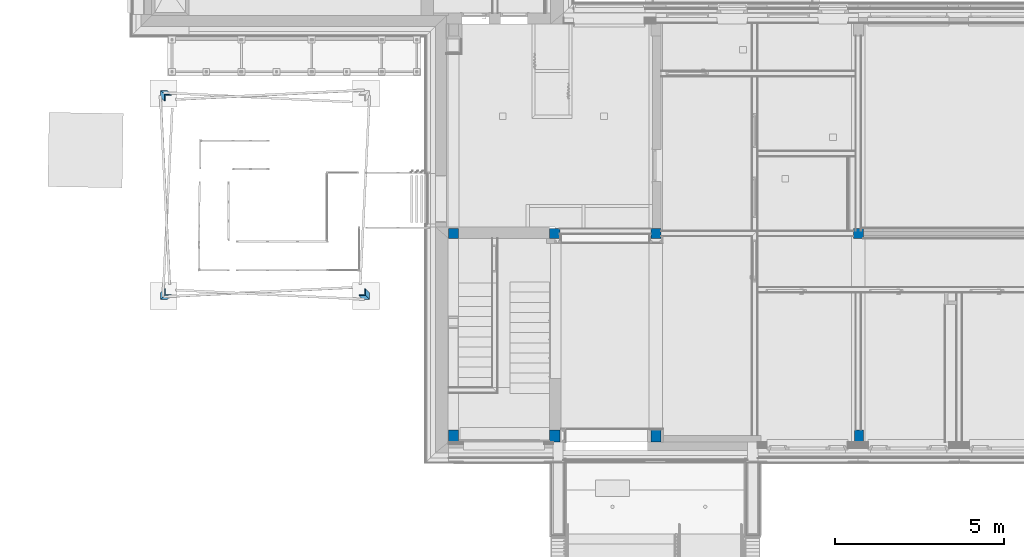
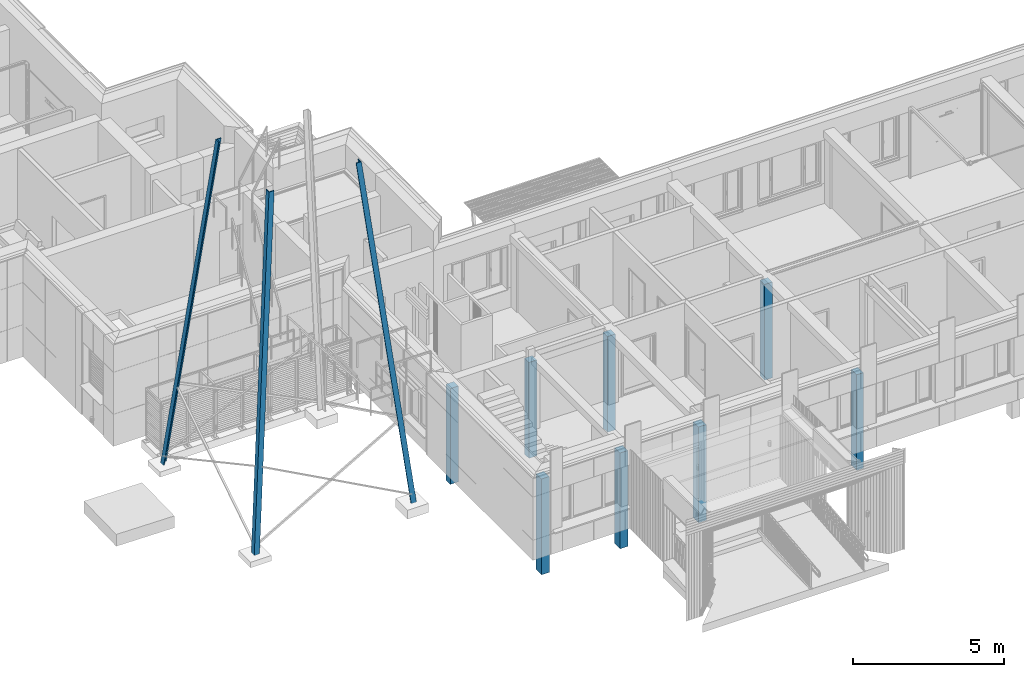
# One storey, part 1 of 418: 11 columns.
"""IFC2X3 building model written with IfcOpenShell, lengths in millimetres."""

from ifc_helpers import new_model, entity, si_unit, converted_unit, derived_unit, money_unit, direction, frame, origin_with_axes, origin_2d_with_axis, place, context, subcontext, project, spatial, polyline, rectangle, outline, extrude, clip, halfspace, material, type_object, element, save


model = new_model("IFC2X3")

# Units and contexts
model_context = context("Model", 3, precision=0.01, world=origin_with_axes(), true_north=direction((0.0, 1.0)))
body_context = subcontext(model_context, "Body", "Model", "MODEL_VIEW")
ifc_project = project(units=[si_unit("LENGTHUNIT", "METRE", prefix="MILLI"), si_unit("AREAUNIT", "SQUARE_METRE"), si_unit("VOLUMEUNIT", "CUBIC_METRE"), converted_unit("PLANEANGLEUNIT", "DEGREE", entity("IfcPlaneAngleMeasure", 0.0174532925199), si_unit("PLANEANGLEUNIT", "RADIAN"), dimensions=[0, 0, 0, 0, 0, 0, 0]), si_unit("SOLIDANGLEUNIT", "STERADIAN"), money_unit("EUR"), converted_unit("TIMEUNIT", "Year", entity("IfcTimeMeasure", 31556926.0), si_unit("TIMEUNIT", "SECOND"), dimensions=[0, 0, 1, 0, 0, 0, 0]), si_unit("MASSUNIT", "GRAM", prefix="KILO"), si_unit("THERMODYNAMICTEMPERATUREUNIT", "DEGREE_CELSIUS"), si_unit("LUMINOUSINTENSITYUNIT", "LUMEN"), si_unit("ENERGYUNIT", "JOULE", prefix="MEGA"), derived_unit("THERMALCONDUCTANCEUNIT", [(si_unit("POWERUNIT", "WATT"), 1), (si_unit("LENGTHUNIT", "METRE"), -1), (si_unit("THERMODYNAMICTEMPERATUREUNIT", "KELVIN"), -1)]), derived_unit("SPECIFICHEATCAPACITYUNIT", [(si_unit("ENERGYUNIT", "JOULE"), 1), (si_unit("MASSUNIT", "GRAM", prefix="KILO"), -1), (si_unit("THERMODYNAMICTEMPERATUREUNIT", "KELVIN"), -1)]), derived_unit("MASSDENSITYUNIT", [(si_unit("MASSUNIT", "GRAM", prefix="KILO"), 1), (si_unit("VOLUMEUNIT", "CUBIC_METRE"), -1)])], contexts=[model_context])

# Site, building, storey
site_placement = place(None, origin_with_axes())
site = spatial("IfcSite", under=ifc_project, at=site_placement, Name="Paldiski mnt 245/1, Tallinn, Harjumaa", CompositionType="COMPLEX")
building_placement = place(site_placement, origin_with_axes())
building = spatial("IfcBuilding", under=site, at=building_placement, Name="RKAS Hoone üldnimetus (kasutust iseloomustav) -> IFC Project Manager -> SOLIBRI", CompositionType="ELEMENT")
storey_placement = place(building_placement, origin_with_axes())
storey = spatial("IfcBuildingStorey", under=building, at=storey_placement, Name="Esimene korrus", CompositionType="ELEMENT", Elevation=0.0)

# Columns
ifc_material_1 = material(Name="KON-00_GENEERILINE - KONSTRUKTSIOON")
column_type_1 = type_object("IfcColumnType", Name="KON-00_GENEERILINE - KONSTRUKTSIOON 300 x 360", PredefinedType="COLUMN")
for number, where, z_axis, x_axis, name in (
    (1, (-44440.0, -12330.0840871, -1200.0), (0.0, 0.0, 1.0), (1.0, 0.0, 0.0), "POST"),
    (2, (-47440.0, -12330.0840871, -1200.0), (0.0, 0.0, 1.0), (1.0, 0.0, 0.0), "POST"),
    (3, (-41440.0, -12330.0840871, -1200.0), (0.0, 0.0, 1.0), (1.0, 0.0, 0.0), "POST"),
):
    element("IfcColumn", number, at=place(storey_placement, frame(where, z_axis=z_axis, x_axis=x_axis)), inside=storey, type_object=column_type_1, material=ifc_material_1, Name=name, ObjectType="COLUMN", context=body_context, shape_type="SweptSolid", body=[
        extrude(rectangle(XDim=300.0, YDim=360.0, at=origin_2d_with_axis()), origin_with_axes(), (0.0, 0.0, 1.0), 3870.0),
    ])
column_type_2 = type_object("IfcColumnType", Name="KON-00_GENEERILINE - KONSTRUKTSIOON 260 x 360", PredefinedType="COLUMN")
column_1_placement = place(storey_placement, frame((-35420.0, -12330.0840871, -1200.0), z_axis=(0.0, 0.0, 1.0), x_axis=(1.0, 0.0, 0.0)))
element("IfcColumn", 4, at=column_1_placement, inside=storey, type_object=column_type_2, material=ifc_material_1, Name="POST", ObjectType="COLUMN", context=body_context, shape_type="SweptSolid", body=[
    extrude(rectangle(XDim=260.0, YDim=360.0, at=origin_2d_with_axis()), origin_with_axes(), (0.0, 0.0, 1.0), 3870.0),
])
column_type_3 = type_object("IfcColumnType", Name="KON-00_GENEERILINE - KONSTRUKTSIOON 300 x 300", PredefinedType="COLUMN")
for number, where, z_axis, x_axis, name in (
    (5, (-35440.0, -6330.0, -1200.0), (0.0, 0.0, 1.0), (1.0, 0.0, 0.0), "POST"),
    (6, (-41440.0, -6330.0, -1200.0), (0.0, 0.0, 1.0), (1.0, 0.0, 0.0), "POST"),
    (7, (-47440.0, -6330.0, -1200.0), (0.0, 0.0, 1.0), (1.0, 0.0, 0.0), "POST"),
    (8, (-44440.0, -6330.0, -1200.0), (0.0, 0.0, 1.0), (1.0, 0.0, 0.0), "POST"),
):
    element("IfcColumn", number, at=place(storey_placement, frame(where, z_axis=z_axis, x_axis=x_axis)), inside=storey, type_object=column_type_3, material=ifc_material_1, Name=name, ObjectType="COLUMN", context=body_context, shape_type="SweptSolid", body=[
        extrude(rectangle(XDim=300.0, YDim=300.0, at=origin_2d_with_axis()), origin_with_axes(), (0.0, 0.0, 1.0), 3870.0),
    ])
ifc_material_2 = material(Name="SV-03_Plaat - Põrand")
column_type_4 = type_object("IfcColumnType", Name="TORN-KONST 283 x 163", PredefinedType="COLUMN")
column_2_placement = place(storey_placement, frame((-56126.29898, -2082.77681025, 0.0), z_axis=(0.0, 0.0, 1.0), x_axis=(-0.707106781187, -0.707106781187, 0.0)))
element("IfcColumn", 9, at=column_2_placement, inside=storey, type_object=column_type_4, material=ifc_material_2, Name="POST", ObjectType="COLUMN", context=body_context, shape_type="Clipping", body=[
    clip(clip(extrude(outline(polyline([(0.0, 0.0), (141.421356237, 141.421356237), (120.208152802, 162.634559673), (0.0, 42.4264068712), (-120.208152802, 162.634559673), (-141.421356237, 141.421356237), (0.0, 0.0)])), frame((0.0, -5.53226310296, -39.364097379), z_axis=(0.0, 0.13917310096, 0.990268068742), x_axis=(1.0, 0.0, 0.0)), (0.0, 0.0, 1.0), 13623.1234823), halfspace(frame((0.0, 0.0, 0.0), z_axis=(0.0, 0.0, 1.0), x_axis=(0.0, -1.0, 0.0)), True)), halfspace(frame((0.0, 0.0, 13411.8159863), z_axis=(0.0, 0.0, -1.0), x_axis=(0.0, 1.0, 0.0)), True)),
])
column_3_placement = place(storey_placement, frame((-56126.29898, -8282.77681025, 0.0), z_axis=(0.0, 0.0, 1.0), x_axis=(0.707106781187, -0.707106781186, 0.0)))
element("IfcColumn", 10, at=column_3_placement, inside=storey, type_object=column_type_4, material=ifc_material_2, Name="POST", ObjectType="COLUMN", context=body_context, shape_type="Clipping", body=[
    clip(clip(extrude(outline(polyline([(0.0, 0.0), (141.421356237, 141.421356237), (120.208152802, 162.634559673), (0.0, 42.4264068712), (-120.208152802, 162.634559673), (-141.421356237, 141.421356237), (0.0, 0.0)])), frame((0.0, -5.53226310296, -39.364097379), z_axis=(0.0, -0.13917310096, -0.990268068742), x_axis=(-1.0, 0.0, 0.0)), (0.0, 0.0, -1.0), 13623.1234823), halfspace(frame((0.0, 0.0, 0.0), z_axis=(0.0, 0.0, 1.0), x_axis=(0.0, -1.0, 0.0)), True)), halfspace(frame((0.0, 0.0, 13411.8159863), z_axis=(0.0, 0.0, -1.0), x_axis=(0.0, 1.0, 0.0)), True)),
])
column_4_placement = place(storey_placement, frame((-49926.29898, -8282.77681025, 0.0), z_axis=(0.0, 0.0, 1.0), x_axis=(0.707106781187, 0.707106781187, 0.0)))
element("IfcColumn", 11, at=column_4_placement, inside=storey, type_object=column_type_4, material=ifc_material_2, Name="POST", ObjectType="COLUMN", context=body_context, shape_type="Clipping", body=[
    clip(clip(extrude(outline(polyline([(0.0, 0.0), (141.421356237, 141.421356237), (120.208152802, 162.634559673), (0.0, 42.4264068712), (-120.208152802, 162.634559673), (-141.421356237, 141.421356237), (0.0, 0.0)])), frame((0.0, -5.53226310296, -39.364097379), z_axis=(0.0, 0.13917310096, 0.990268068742), x_axis=(1.0, 0.0, 0.0)), (0.0, 0.0, 1.0), 13623.1234823), halfspace(frame((0.0, 0.0, 0.0), z_axis=(0.0, 0.0, 1.0), x_axis=(0.0, -1.0, 0.0)), True)), halfspace(frame((0.0, 0.0, 13411.8159863), z_axis=(0.0, 0.0, -1.0), x_axis=(0.0, 1.0, 0.0)), True)),
])

save(model, "model.ifc")
